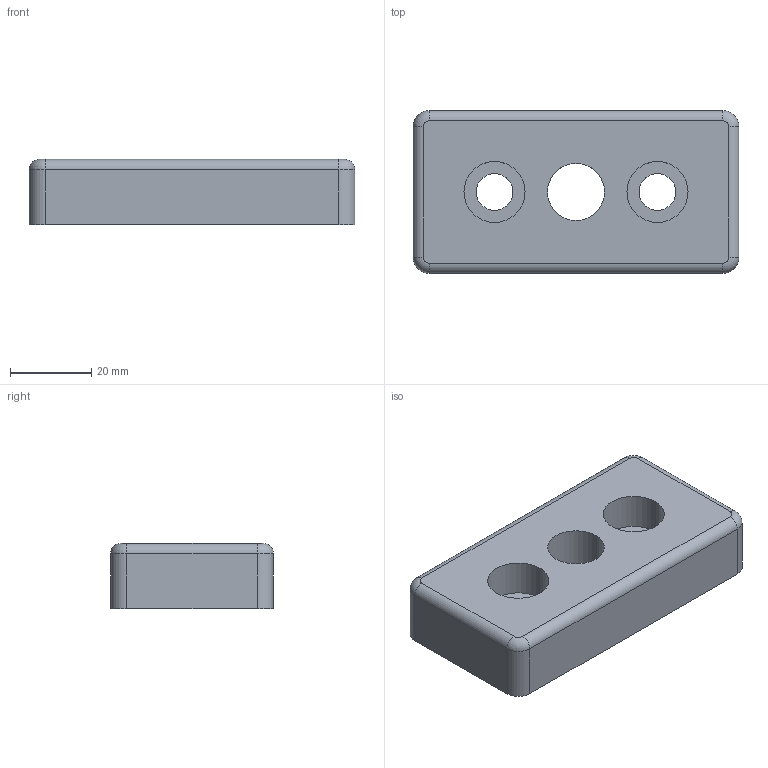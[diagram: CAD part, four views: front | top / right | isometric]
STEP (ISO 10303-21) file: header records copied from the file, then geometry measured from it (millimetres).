
FILE_DESCRIPTION (( 'STEP AP203' ), '1' );
FILE_NAME ('0108FP8040M16.STEP', '2024-03-15T12:20:54', ( 'Windows-Benutzer' ), ( '' ), 'SwSTEP 2.0', 'SolidWorks 2023', '' );
FILE_SCHEMA (( 'CONFIG_CONTROL_DESIGN' ));
Length unit declared in the file: millimetre
Products named in the file (1): 0108FP8040M16
Bounding box: 80 x 40 x 16 mm (x, y, z)
Volume: 44137.7 mm3; surface area: 11235.2 mm2
Topology: 1 solids, 1 shells, 30 faces, 70 edges, 44 vertices
Faces by surface type: cylinder 18, plane 8, torus 4
Entity records: 959 total; most frequent: DIRECTION 172, CARTESIAN_POINT 145, ORIENTED_EDGE 140, AXIS2_PLACEMENT_3D 71, EDGE_CURVE 70, VERTEX_POINT 44, CIRCLE 40, EDGE_LOOP 38
